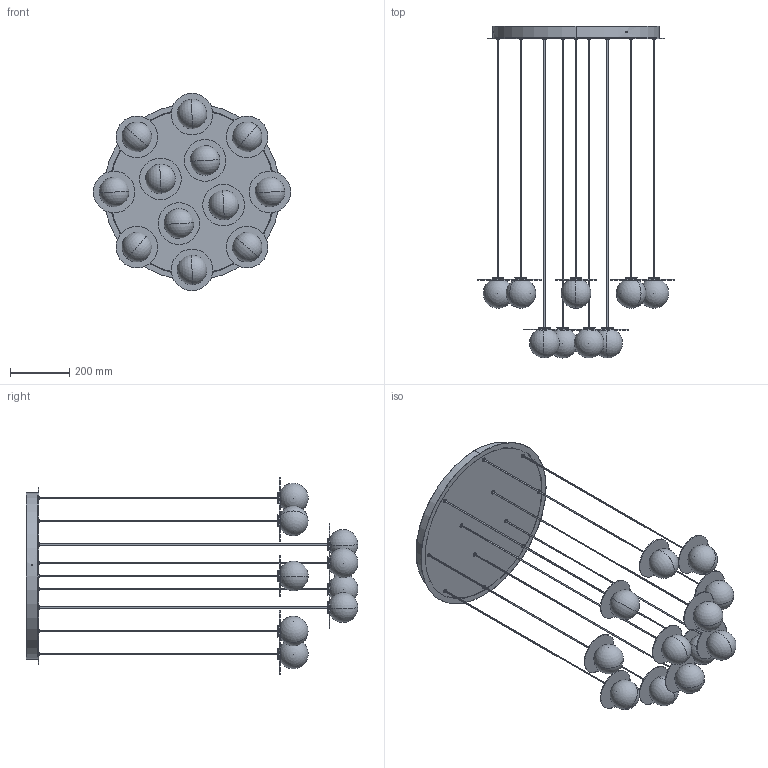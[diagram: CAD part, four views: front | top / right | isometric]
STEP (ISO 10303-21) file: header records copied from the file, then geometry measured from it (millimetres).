
FILE_DESCRIPTION (( 'STEP AP203' ), '1' );
FILE_NAME ('SPKI1012TXXXXXX-PER 3D.STEP', '2025-06-25T09:20:01', ( '' ), ( '' ), 'SwSTEP 2.0', 'SolidWorks 2024', '' );
FILE_SCHEMA (( 'CONFIG_CONTROL_DESIGN' ));
Length unit declared in the file: millimetre
Products named in the file (32): PENDENTE SPKI1001-00; CAVO NL2CN; SPKI1012TXXXXXX-PER 3D; WSVAXXX0100BC7XX00; WSCM2C0181-0100-00; WSASS-000000057-00; WSM2G1522-FR------; WSCM2F0027-0100-01; WSCM2C0201-0700-02_WSCM2C0201-0700-02; WSCM2A0156-0700-01
Assembly tree (75 placements, depth 3):
  SPKI1012TXXXXXX-PER 3D
    WSASS-000000057-00
      WSCM2F0027-0100-01
      WSCM2C0181-0100-00
      WSM2G1522-FR------  x12
    PENDENTE SPKI1001-00
      WSCM2C0201-0700-02_WSCM2C0201-0700-02
      WSVAXXX0100BC7XX00
      CAVO NL2CN
      WSCM2A0156-0700-01
    PENDENTE SPKI1001-00
      WSCM2C0201-0700-02_WSCM2C0201-0700-02
      WSVAXXX0100BC7XX00
      CAVO NL2CN
      WSCM2A0156-0700-01
    PENDENTE SPKI1001-00
      WSCM2C0201-0700-02_WSCM2C0201-0700-02
      WSVAXXX0100BC7XX00
      CAVO NL2CN
      WSCM2A0156-0700-01
    PENDENTE SPKI1001-00
      WSCM2C0201-0700-02_WSCM2C0201-0700-02
      WSVAXXX0100BC7XX00
      CAVO NL2CN
      WSCM2A0156-0700-01
    PENDENTE SPKI1001-00
      WSCM2C0201-0700-02_WSCM2C0201-0700-02
      WSVAXXX0100BC7XX00
      CAVO NL2CN
      WSCM2A0156-0700-01
    PENDENTE SPKI1001-00
      WSCM2C0201-0700-02_WSCM2C0201-0700-02
      WSVAXXX0100BC7XX00
      CAVO NL2CN
      WSCM2A0156-0700-01
    PENDENTE SPKI1001-00
      WSCM2C0201-0700-02_WSCM2C0201-0700-02
      WSVAXXX0100BC7XX00
      CAVO NL2CN
      WSCM2A0156-0700-01
    PENDENTE SPKI1001-00
      WSCM2C0201-0700-02_WSCM2C0201-0700-02
      WSVAXXX0100BC7XX00
      CAVO NL2CN
      WSCM2A0156-0700-01
    PENDENTE SPKI1001-00
      WSCM2C0201-0700-02_WSCM2C0201-0700-02
      WSVAXXX0100BC7XX00
      CAVO NL2CN
      WSCM2A0156-0700-01
    PENDENTE SPKI1001-00
      WSCM2C0201-0700-02_WSCM2C0201-0700-02
      WSVAXXX0100BC7XX00
      CAVO NL2CN
      WSCM2A0156-0700-01
    PENDENTE SPKI1001-00
      WSCM2C0201-0700-02_WSCM2C0201-0700-02
      WSVAXXX0100BC7XX00
      CAVO NL2CN
      WSCM2A0156-0700-01
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Bounding box: 665 x 1117.16 x 665 mm (x, y, z)
Volume: 2560118.1 mm3; surface area: 2438848.4 mm2
Topology: 62 solids, 62 shells, 1125 faces, 2660 edges, 1660 vertices
Faces by surface type: cylinder 468, cone 336, plane 269, sphere 48, torus 4
Entity records: 12556 total; most frequent: CARTESIAN_POINT 1680, DIRECTION 1500, ORIENTED_EDGE 1164, AXIS2_PLACEMENT_3D 598, EDGE_CURVE 582, VERTEX_POINT 378, PERSON_AND_ORGANIZATION 331, EDGE_LOOP 320
